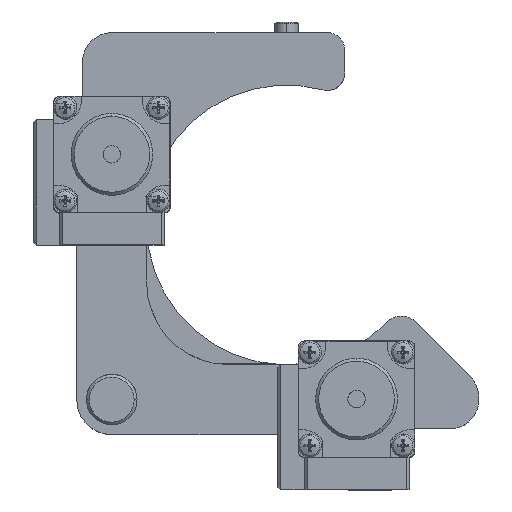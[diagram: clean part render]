
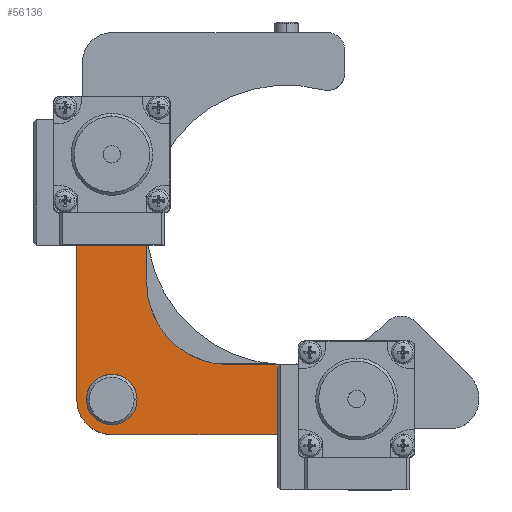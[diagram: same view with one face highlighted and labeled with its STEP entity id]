
A CAD part, top view. The second image highlights one B-rep face of the part: STEP entity #56136.
In plain terms, the highlighted planar face has unit normal (0, 0, 1).
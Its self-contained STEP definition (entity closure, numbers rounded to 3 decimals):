
#20246 = CARTESIAN_POINT ( 'NONE',  ( 40.951, 11.937, 16. ) ) ;
#23447 = CARTESIAN_POINT ( 'NONE',  ( 36.951, 11.937, 16. ) ) ;
#23721 = DIRECTION ( 'NONE',  ( -1., 0., 0. ) ) ;
#23722 = VECTOR ( 'NONE', #23721, 1000. ) ;
#23724 = CARTESIAN_POINT ( 'NONE',  ( 25.926, 11.937, 16. ) ) ;
#23725 = LINE ( 'NONE', #23724, #23722 ) ;
#23764 = CARTESIAN_POINT ( 'NONE',  ( 36.951, -0.038, 16. ) ) ;
#24027 = DIRECTION ( 'NONE',  ( 0., -1., 0. ) ) ;
#24029 = VECTOR ( 'NONE', #24027, 1000. ) ;
#24031 = CARTESIAN_POINT ( 'NONE',  ( 36.951, 5.962, 16. ) ) ;
#24033 = LINE ( 'NONE', #24031, #24029 ) ;
#25255 = CARTESIAN_POINT ( 'NONE',  ( -1.074, 37.937, 16. ) ) ;
#25258 = DIRECTION ( 'NONE',  ( 1., 0., 0. ) ) ;
#25260 = VECTOR ( 'NONE', #25258, 1000. ) ;
#25261 = CARTESIAN_POINT ( 'NONE',  ( 25.926, 37.937, 16. ) ) ;
#25262 = LINE ( 'NONE', #25261, #25260 ) ;
#25265 = CARTESIAN_POINT ( 'NONE',  ( 10.926, 37.937, 16. ) ) ;
#25268 = DIRECTION ( 'NONE',  ( 0., -1., 0. ) ) ;
#25269 = VECTOR ( 'NONE', #25268, 1000. ) ;
#25272 = CARTESIAN_POINT ( 'NONE',  ( 10.926, -0.038, 16. ) ) ;
#25273 = LINE ( 'NONE', #25272, #25269 ) ;
#25276 = CARTESIAN_POINT ( 'NONE',  ( 10.926, 25.962, 16. ) ) ;
#25278 = DIRECTION ( 'NONE',  ( 0., -1., 0. ) ) ;
#25280 = DIRECTION ( 'NONE',  ( 0., 0., 1. ) ) ;
#25281 = CARTESIAN_POINT ( 'NONE',  ( 24.926, 25.962, 16. ) ) ;
#25282 = AXIS2_PLACEMENT_3D ( 'NONE', #25281, #25280, #25278 ) ;
#25283 = CIRCLE ( 'NONE', #25282, 14. ) ;
#25288 = CARTESIAN_POINT ( 'NONE',  ( 24.926, 11.962, 16. ) ) ;
#25392 = DIRECTION ( 'NONE',  ( -1., 0., 0. ) ) ;
#25393 = VECTOR ( 'NONE', #25392, 1000. ) ;
#25394 = CARTESIAN_POINT ( 'NONE',  ( -1.074, -0.038, 16. ) ) ;
#25396 = LINE ( 'NONE', #25394, #25393 ) ;
#25400 = CARTESIAN_POINT ( 'NONE',  ( 4.926, -0.038, 16. ) ) ;
#25402 = DIRECTION ( 'NONE',  ( 0., 1., 0. ) ) ;
#25404 = DIRECTION ( 'NONE',  ( 0., 0., -1. ) ) ;
#25405 = CARTESIAN_POINT ( 'NONE',  ( 4.926, 5.962, 16. ) ) ;
#25406 = AXIS2_PLACEMENT_3D ( 'NONE', #25405, #25404, #25402 ) ;
#25407 = CIRCLE ( 'NONE', #25406, 6. ) ;
#25411 = CARTESIAN_POINT ( 'NONE',  ( -1.074, 5.962, 16. ) ) ;
#25412 = DIRECTION ( 'NONE',  ( 0., 1., 0. ) ) ;
#25413 = VECTOR ( 'NONE', #25412, 1000. ) ;
#25415 = CARTESIAN_POINT ( 'NONE',  ( -1.074, 11.962, 16. ) ) ;
#25417 = LINE ( 'NONE', #25415, #25413 ) ;
#25432 = DIRECTION ( 'NONE',  ( 0., 1., 0. ) ) ;
#25433 = DIRECTION ( 'NONE',  ( 0., 0., -1. ) ) ;
#25434 = CARTESIAN_POINT ( 'NONE',  ( 25.926, 5.962, 16. ) ) ;
#25436 = AXIS2_PLACEMENT_3D ( 'NONE', #25434, #25433, #25432 ) ;
#25437 = PLANE ( 'NONE',  #25436 ) ;
#25443 = FACE_OUTER_BOUND ( 'NONE', #56174, .T. ) ;
#25444 = FACE_BOUND ( 'NONE', #56137, .T. ) ;
#25445 = DIRECTION ( 'NONE',  ( 0., 1., 0. ) ) ;
#25446 = VECTOR ( 'NONE', #25445, 1000. ) ;
#25447 = CARTESIAN_POINT ( 'NONE',  ( 40.951, 15.937, 16. ) ) ;
#25448 = LINE ( 'NONE', #25447, #25446 ) ;
#25502 = CARTESIAN_POINT ( 'NONE',  ( 40.951, 11.962, 16. ) ) ;
#25558 = DIRECTION ( 'NONE',  ( 0., 1., 0. ) ) ;
#25559 = DIRECTION ( 'NONE',  ( 0., 0., 1. ) ) ;
#25560 = CARTESIAN_POINT ( 'NONE',  ( 4.926, 5.962, 16. ) ) ;
#25561 = AXIS2_PLACEMENT_3D ( 'NONE', #25560, #25559, #25558 ) ;
#25562 = CIRCLE ( 'NONE', #25561, 4.35 ) ;
#25664 = DIRECTION ( 'NONE',  ( 1., 0., 0. ) ) ;
#25665 = VECTOR ( 'NONE', #25664, 1000. ) ;
#25666 = CARTESIAN_POINT ( 'NONE',  ( 52.926, 11.962, 16. ) ) ;
#25667 = LINE ( 'NONE', #25666, #25665 ) ;
#36024 = EDGE_CURVE ( 'NONE', #36025, #36026, #49761, .T. ) ;
#36025 = VERTEX_POINT ( 'NONE', #49751 ) ;
#36026 = VERTEX_POINT ( 'NONE', #49750 ) ;
#49750 = CARTESIAN_POINT ( 'NONE',  ( 4.926, 1.612, 16. ) ) ;
#49751 = CARTESIAN_POINT ( 'NONE',  ( 4.926, 10.312, 16. ) ) ;
#49752 = DIRECTION ( 'NONE',  ( 0., 1., 0. ) ) ;
#49753 = DIRECTION ( 'NONE',  ( 0., 0., 1. ) ) ;
#49754 = CARTESIAN_POINT ( 'NONE',  ( 4.926, 5.962, 16. ) ) ;
#49755 = AXIS2_PLACEMENT_3D ( 'NONE', #49754, #49753, #49752 ) ;
#49761 = CIRCLE ( 'NONE', #49755, 4.35 ) ;
#54673 = VERTEX_POINT ( 'NONE', #20246 ) ;
#55679 = VERTEX_POINT ( 'NONE', #23447 ) ;
#55729 = EDGE_CURVE ( 'NONE', #54673, #55679, #23725, .T. ) ;
#55758 = VERTEX_POINT ( 'NONE', #23764 ) ;
#55804 = EDGE_CURVE ( 'NONE', #55679, #55758, #24033, .T. ) ;
#56065 = VERTEX_POINT ( 'NONE', #25288 ) ;
#56066 = ORIENTED_EDGE ( 'NONE', *, *, #56067, .F. ) ;
#56067 = EDGE_CURVE ( 'NONE', #56068, #56065, #25283, .T. ) ;
#56068 = VERTEX_POINT ( 'NONE', #25276 ) ;
#56069 = ORIENTED_EDGE ( 'NONE', *, *, #56070, .F. ) ;
#56070 = EDGE_CURVE ( 'NONE', #56071, #56068, #25273, .T. ) ;
#56071 = VERTEX_POINT ( 'NONE', #25265 ) ;
#56072 = ORIENTED_EDGE ( 'NONE', *, *, #56073, .F. ) ;
#56073 = EDGE_CURVE ( 'NONE', #56074, #56071, #25262, .T. ) ;
#56074 = VERTEX_POINT ( 'NONE', #25255 ) ;
#56075 = ORIENTED_EDGE ( 'NONE', *, *, #56108, .F. ) ;
#56108 = EDGE_CURVE ( 'NONE', #56109, #56074, #25417, .T. ) ;
#56109 = VERTEX_POINT ( 'NONE', #25411 ) ;
#56110 = ORIENTED_EDGE ( 'NONE', *, *, #56111, .F. ) ;
#56111 = EDGE_CURVE ( 'NONE', #56112, #56109, #25407, .T. ) ;
#56112 = VERTEX_POINT ( 'NONE', #25400 ) ;
#56113 = ORIENTED_EDGE ( 'NONE', *, *, #56114, .F. ) ;
#56114 = EDGE_CURVE ( 'NONE', #55758, #56112, #25396, .T. ) ;
#56115 = ORIENTED_EDGE ( 'NONE', *, *, #55804, .F. ) ;
#56116 = ORIENTED_EDGE ( 'NONE', *, *, #55729, .F. ) ;
#56117 = ORIENTED_EDGE ( 'NONE', *, *, #56135, .T. ) ;
#56135 = EDGE_CURVE ( 'NONE', #54673, #56153, #25448, .T. ) ;
#56136 = ADVANCED_FACE ( 'NONE', ( #25444, #25443 ), #25437, .F. ) ;
#56137 = EDGE_LOOP ( 'NONE', ( #56171, #56172 ) ) ;
#56153 = VERTEX_POINT ( 'NONE', #25502 ) ;
#56171 = ORIENTED_EDGE ( 'NONE', *, *, #36024, .F. ) ;
#56172 = ORIENTED_EDGE ( 'NONE', *, *, #56173, .F. ) ;
#56173 = EDGE_CURVE ( 'NONE', #36026, #36025, #25562, .T. ) ;
#56174 = EDGE_LOOP ( 'NONE', ( #56175, #56066, #56069, #56072, #56075, #56110, #56113, #56115, #56116, #56117 ) ) ;
#56175 = ORIENTED_EDGE ( 'NONE', *, *, #56176, .F. ) ;
#56176 = EDGE_CURVE ( 'NONE', #56065, #56153, #25667, .T. ) ;
